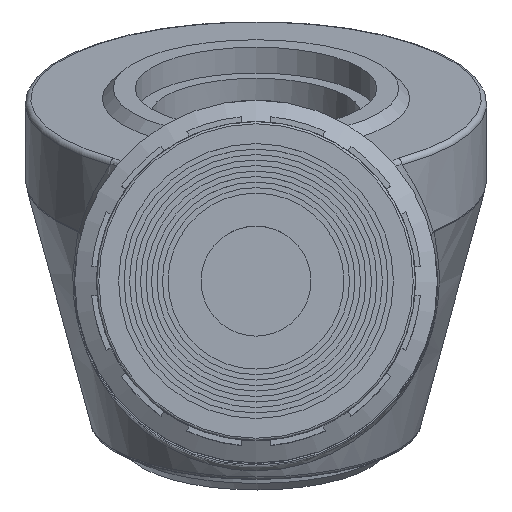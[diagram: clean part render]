
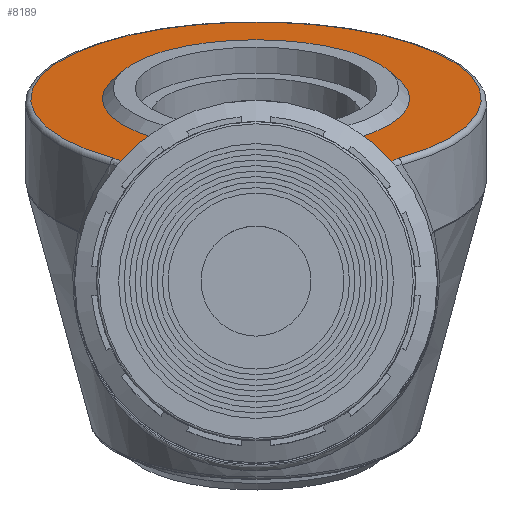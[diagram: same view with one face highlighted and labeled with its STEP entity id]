
A CAD part, top view. The second image highlights one B-rep face of the part: STEP entity #8189.
In plain terms, the highlighted planar face has unit normal (0, 0.94, 0.342).
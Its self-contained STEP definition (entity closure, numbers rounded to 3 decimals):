
#139=ELLIPSE('',#8800,46.781,16.);
#142=ELLIPSE('',#8808,46.781,16.);
#224=FACE_BOUND('',#1143,.T.);
#373=PLANE('',#8812);
#671=FACE_OUTER_BOUND('',#1142,.T.);
#1142=EDGE_LOOP('',(#5744,#5745,#5746,#5747,#5748,#5749));
#1143=EDGE_LOOP('',(#5750));
#1687=CIRCLE('',#8805,20.5);
#1690=CIRCLE('',#8813,14.);
#2199=LINE('',#13316,#2690);
#2690=VECTOR('',#10152,10.);
#3060=B_SPLINE_CURVE_WITH_KNOTS('',3,(#12861,#12862,#12863,#12864,#12865),
 .UNSPECIFIED.,.F.,.F.,(4,1,4),(0.,0.094,0.219),
 .UNSPECIFIED.);
#3063=B_SPLINE_CURVE_WITH_KNOTS('',3,(#12935,#12936,#12937,#12938,#12939),
 .UNSPECIFIED.,.F.,.F.,(4,1,4),(0.,0.094,0.219),
 .UNSPECIFIED.);
#3353=VERTEX_POINT('',#12850);
#3356=VERTEX_POINT('',#12859);
#3358=VERTEX_POINT('',#12883);
#3359=VERTEX_POINT('',#12897);
#3361=VERTEX_POINT('',#12927);
#3363=VERTEX_POINT('',#12956);
#3373=VERTEX_POINT('',#13317);
#4259=EDGE_CURVE('',#3356,#3353,#3060,.T.);
#4261=EDGE_CURVE('',#3358,#3356,#139,.T.);
#4265=EDGE_CURVE('',#3353,#3359,#1687,.T.);
#4268=EDGE_CURVE('',#3359,#3361,#3063,.T.);
#4271=EDGE_CURVE('',#3361,#3363,#142,.T.);
#4284=EDGE_CURVE('',#3363,#3358,#2199,.T.);
#4285=EDGE_CURVE('',#3373,#3373,#1690,.T.);
#5744=ORIENTED_EDGE('',*,*,#4271,.F.);
#5745=ORIENTED_EDGE('',*,*,#4268,.F.);
#5746=ORIENTED_EDGE('',*,*,#4265,.F.);
#5747=ORIENTED_EDGE('',*,*,#4259,.F.);
#5748=ORIENTED_EDGE('',*,*,#4261,.F.);
#5749=ORIENTED_EDGE('',*,*,#4284,.F.);
#5750=ORIENTED_EDGE('',*,*,#4285,.F.);
#8189=ADVANCED_FACE('',(#671,#224),#373,.T.);
#8800=AXIS2_PLACEMENT_3D('',#12894,#10123,#10124);
#8805=AXIS2_PLACEMENT_3D('',#12901,#10133,#10134);
#8808=AXIS2_PLACEMENT_3D('',#12969,#10139,#10140);
#8812=AXIS2_PLACEMENT_3D('',#13315,#10150,#10151);
#8813=AXIS2_PLACEMENT_3D('',#13318,#10153,#10154);
#10123=DIRECTION('center_axis',(0.,-0.94,
-0.342));
#10124=DIRECTION('ref_axis',(0.,0.342,-0.94));
#10133=DIRECTION('center_axis',(0.,-0.94,
-0.342));
#10134=DIRECTION('ref_axis',(0.,0.342,-0.94));
#10139=DIRECTION('center_axis',(0.,-0.94,
-0.342));
#10140=DIRECTION('ref_axis',(0.,0.342,-0.94));
#10150=DIRECTION('center_axis',(0.,0.94,
0.342));
#10151=DIRECTION('ref_axis',(0.,-0.342,0.94));
#10152=DIRECTION('',(-1.,0.,0.));
#10153=DIRECTION('center_axis',(0.,0.94,
0.342));
#10154=DIRECTION('ref_axis',(-1.,0.,0.));
#12850=CARTESIAN_POINT('',(-23.791,22.092,21.079));
#12859=CARTESIAN_POINT('',(-23.029,21.429,22.903));
#12861=CARTESIAN_POINT('Ctrl Pts',(-23.029,21.429,22.903));
#12862=CARTESIAN_POINT('Ctrl Pts',(-22.942,21.531,22.62));
#12863=CARTESIAN_POINT('Ctrl Pts',(-23.011,21.793,21.9));
#12864=CARTESIAN_POINT('Ctrl Pts',(-23.467,22.002,21.327));
#12865=CARTESIAN_POINT('Ctrl Pts',(-23.791,22.092,21.079));
#12883=CARTESIAN_POINT('',(-23.966,20.21,26.251));
#12894=CARTESIAN_POINT('Origin',(-10.827,11.079,51.338));
#12897=CARTESIAN_POINT('',(2.137,22.092,21.079));
#12901=CARTESIAN_POINT('Origin',(-10.827,27.524,6.156));
#12927=CARTESIAN_POINT('',(1.375,21.429,22.903));
#12935=CARTESIAN_POINT('Ctrl Pts',(2.137,22.092,21.079));
#12936=CARTESIAN_POINT('Ctrl Pts',(1.894,22.025,21.265));
#12937=CARTESIAN_POINT('Ctrl Pts',(1.412,21.829,21.804));
#12938=CARTESIAN_POINT('Ctrl Pts',(1.259,21.566,22.526));
#12939=CARTESIAN_POINT('Ctrl Pts',(1.375,21.429,22.903));
#12956=CARTESIAN_POINT('',(2.312,20.21,26.251));
#12969=CARTESIAN_POINT('Origin',(-10.827,11.079,51.338));
#13315=CARTESIAN_POINT('Origin',(-10.827,26.954,7.723));
#13316=CARTESIAN_POINT('',(-10.827,20.21,26.251));
#13317=CARTESIAN_POINT('',(3.173,27.524,6.156));
#13318=CARTESIAN_POINT('Origin',(-10.827,27.524,6.156));
